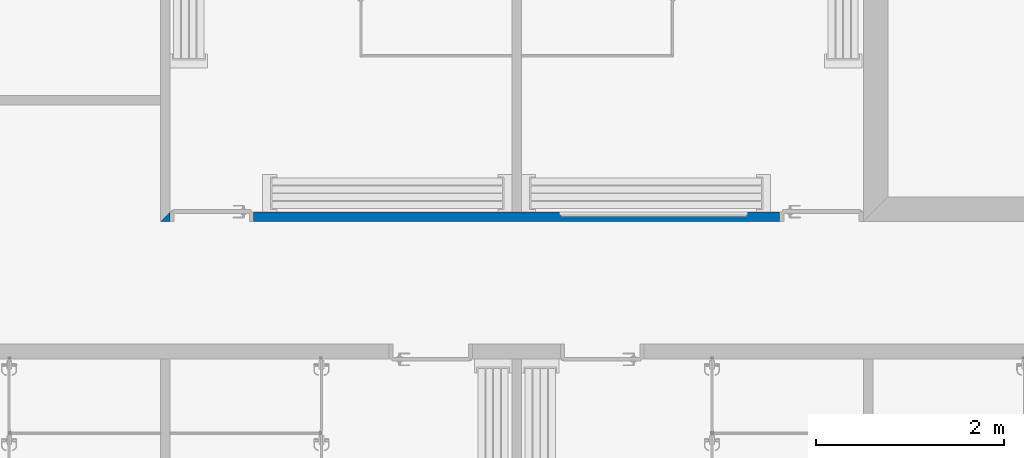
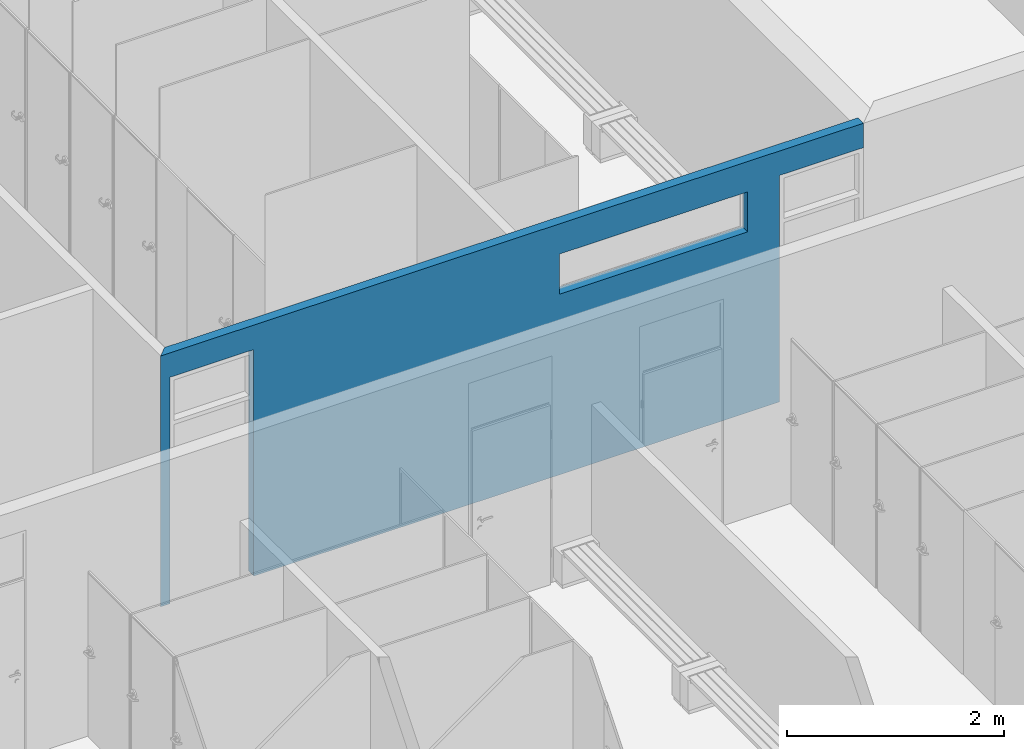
# One storey, part 23 of 45: 1 wall, 3 openings.
"""IFC2X3 building model written with IfcOpenShell, lengths in metres."""

from ifc_helpers import new_model, entity, si_unit, converted_unit, money_unit, direction, frame, origin_with_axes, place, context, subcontext, project, spatial, polyline, outline, extrude, material, layer, layer_set, layer_usage, type_object, element, save


model = new_model("IFC2X3")

# Units and contexts
model_context = context("Model", 3, precision=1e-05, world=origin_with_axes(), true_north=direction((0.0, 1.0)))
body_context = subcontext(model_context, "Body", "Model", "MODEL_VIEW")
ifc_project = project(units=[si_unit("LENGTHUNIT", "METRE"), si_unit("AREAUNIT", "SQUARE_METRE"), si_unit("VOLUMEUNIT", "CUBIC_METRE"), converted_unit("PLANEANGLEUNIT", "DEGREE", entity("IfcPlaneAngleMeasure", 0.0174532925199), si_unit("PLANEANGLEUNIT", "RADIAN"), dimensions=[0, 0, 0, 0, 0, 0, 0]), si_unit("SOLIDANGLEUNIT", "STERADIAN"), money_unit("EUR"), converted_unit("TIMEUNIT", "Year", entity("IfcTimeMeasure", 31556926.0), si_unit("TIMEUNIT", "SECOND"), dimensions=[0, 0, 0, 0, 0, 0, 0]), si_unit("MASSUNIT", "GRAM"), si_unit("THERMODYNAMICTEMPERATUREUNIT", "DEGREE_CELSIUS"), si_unit("LUMINOUSINTENSITYUNIT", "LUMEN")], contexts=[model_context])

# Site, building, storey
site_placement = place(None, origin_with_axes())
site = spatial("IfcSite", under=ifc_project, at=site_placement, Name="Site", CompositionType="ELEMENT")
building_placement = place(site_placement, origin_with_axes())
building = spatial("IfcBuilding", under=site, at=building_placement, Name="Bâtiment", CompositionType="ELEMENT")
storey_placement = place(building_placement, origin_with_axes())
storey = spatial("IfcBuildingStorey", under=building, at=storey_placement, Name="NIVEAU BAS GYMNASE", CompositionType="ELEMENT", Elevation=0.0)

# Wall, openings
ifc_material = material(Name="Hachure solide* 3962059836")
ifc_layer = layer(ifc_material, 0.1, ventilated="UNKNOWN")
ifc_layer_set = layer_set([ifc_layer], Name="Hachure solide* 3962059836 0.1")
ifc_layer_usage = layer_usage(ifc_layer_set, "AXIS2", "POSITIVE", -0.1)
wall_type = type_object("IfcWallType", Name="Hachure solide* 3962059836 100", PredefinedType="NOTDEFINED")
wall_placement = place(storey_placement, frame((63.363457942, 14.568815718, 0.0), z_axis=(0.0, 0.0, 1.0), x_axis=(-1.0, 0.0, 0.0)))
wall = element("IfcWallStandardCase", 1, at=wall_placement, inside=storey, type_object=wall_type, material=ifc_layer_usage, Name="Mur-004", context=body_context, shape_type="SweptSolid", body=[
    extrude(outline(polyline([(0.26, -0.1), (7.63, -0.1), (7.73, 0.0), (0.26, 0.0), (0.26, -0.1)])), origin_with_axes(), (0.0, 0.0, 1.0), 2.82),
])
opening_1_placement = place(wall_placement, frame((2.48986697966, 0.0, 2.03), z_axis=(0.0, 0.0, 1.0), x_axis=(1.0, 0.0, 0.0)))
element("IfcOpeningElement", 2, at=opening_1_placement, cuts=wall, Name="Fen-027", context=body_context, shape_type="SweptSolid", body=[
    extrude(outline(polyline([(1.0, -0.45), (1.0, 0.0), (-1.0, 0.0), (-1.0, -0.45), (1.0, -0.45)])), frame((0.0, 0.1, 0.0), z_axis=(0.0, -1.0, 0.0), x_axis=(-1.0, 0.0, 0.0)), (0.0, 0.0, 1.0), 0.3),
])
opening_2_placement = place(wall_placement, frame((7.18500000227, 0.0, -0.01), z_axis=(0.0, 0.0, 1.0), x_axis=(1.0, 0.0, 0.0)))
element("IfcOpeningElement", 3, at=opening_2_placement, cuts=wall, Name="Por-018", context=body_context, shape_type="SweptSolid", body=[
    extrude(outline(polyline([(0.445, 0.0), (-0.445, 0.0), (-0.445, -2.555), (0.445, -2.555), (0.445, 0.0)])), frame((0.0, 0.1, 0.0), z_axis=(0.0, -1.0, 0.0), x_axis=(-1.0, 0.0, 0.0)), (0.0, 0.0, 1.0), 0.2),
])
opening_3_placement = place(wall_placement, frame((0.704999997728, 0.0, -0.01), z_axis=(0.0, 0.0, 1.0), x_axis=(1.0, 0.0, 0.0)))
element("IfcOpeningElement", 4, at=opening_3_placement, cuts=wall, Name="Por-019", context=body_context, shape_type="SweptSolid", body=[
    extrude(outline(polyline([(-0.445, 0.0), (-0.445, -2.555), (0.445, -2.555), (0.445, 0.0), (-0.445, 0.0)])), frame((0.0, 0.1, 0.0), z_axis=(0.0, -1.0, 0.0), x_axis=(-1.0, 0.0, 0.0)), (0.0, 0.0, 1.0), 0.2),
])

save(model, "model.ifc")
